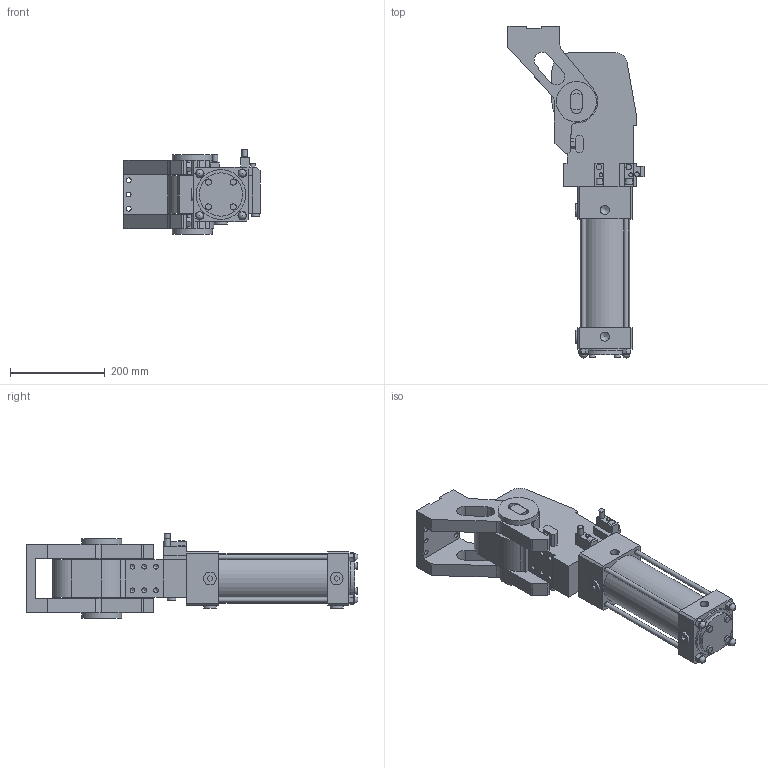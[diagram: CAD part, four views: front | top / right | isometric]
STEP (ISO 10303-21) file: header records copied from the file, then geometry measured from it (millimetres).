
FILE_DESCRIPTION(/* description */ (''),/* implementation_level */ '2;1');
FILE_NAME(/* name */ 'S:\Tom\INVENTOR FILES\AUTOMOTIVE\VEP\DUMP UNITS\C05.P015 RFM.2-RF.2\C05.P015 RFM.2-RF.2\RFM100\SATs\XPUZ100.2-121-2-ESL-P-G-X.stp',/* time_stamp */ '2018-07-29T17:24:03+01:00',/* author */ ('carl'),/* organization */ (''),/* preprocessor_version */ 'ST-DEVELOPER v16.13',/* originating_system */ 'Autodesk Inventor 2018',/* authorisation */ '');
FILE_SCHEMA (('AUTOMOTIVE_DESIGN { 1 0 10303 214 3 1 1 }'));
Length unit declared in the file: millimetre
Products named in the file (11): XPUZ100.2-121-2-ESL-P-G-X_TOP; XPUZ100; XPUZ100_1; XPUZ100_2; XPUZ100_3; XPUZ100_4; XPUZ100_5; XPUZ100_6; XPUZ100_7; XPUZ100_8; XPUZ100_9
Assembly tree (10 placements, depth 2):
  XPUZ100.2-121-2-ESL-P-G-X_TOP
    XPUZ100
    XPUZ100_1
    XPUZ100_2
    XPUZ100_3
    XPUZ100_4
    XPUZ100_5
    XPUZ100_6
    XPUZ100_7
    XPUZ100_8
    XPUZ100_9
Bounding box: 288 x 702 x 179.5 mm (x, y, z)
Volume: 8726079.4 mm3; surface area: 599660.7 mm2
Topology: 10 solids, 10 shells, 383 faces, 927 edges, 612 vertices
Faces by surface type: plane 258, cylinder 103, cone 18, sphere 4
Full cylindrical faces by diameter (mm): 5.5 x2, 8.5 x2, 10 x13, 10.2 x13, 11.8 x2, 12 x2, 13 x5, 16 x4, 18 x1, 19 x6, 20.6 x4, 27 x4, 35 x1, 44 x2, 45.5 x1, 85 x2, 91.5 x1, 105 x2
Entity records: 10907 total; most frequent: DIRECTION 1826, CARTESIAN_POINT 1802, ORIENTED_EDGE 1624, EDGE_CURVE 812, AXIS2_PLACEMENT_3D 610, LINE 606, VECTOR 606, VERTEX_POINT 586
